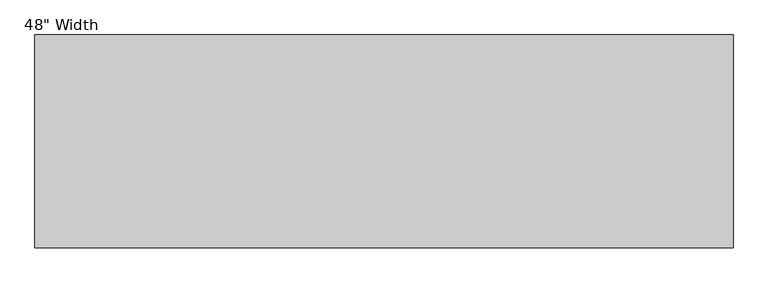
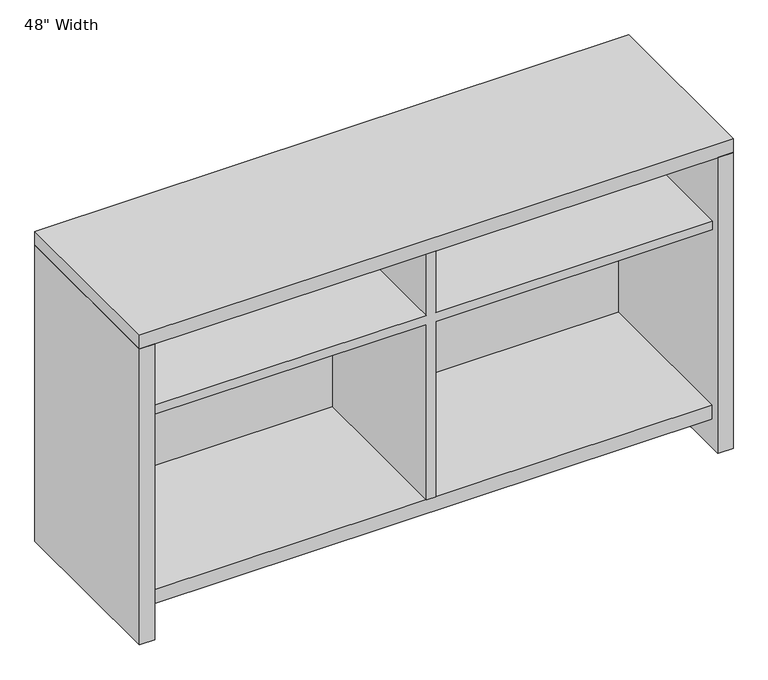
"""IFC4 building model written with IfcOpenShell, lengths in millimetres: furniture geometry."""

from ifc_helpers import new_model, si_unit, frame, origin, origin_with_axes, place, context, project, spatial, polyline, outline, extrude, source, transform, mapped, element, save


def furniture_297744aa(model_context):
    return source(origin(), model_context, "Body", "SweptSolid", [
        extrude(outline(polyline([(493.7125, -577.85), (474.6625, -577.85), (474.6625, -9.525), (93.6625, -9.525), (93.6625, 9.525), (474.6625, 9.525), (474.6625, 577.85), (493.7125, 577.85), (493.7125, 9.525), (642.9375, 9.525), (642.9375, -9.525), (493.7125, -9.525), (493.7125, -577.85)])), frame((0.0, -352.425, 0.0), z_axis=(0.0, 1.0, 0.0), x_axis=(0.0, 0.0, 1.0)), (0.0, 0.0, 1.0), 333.375),
        extrude(outline(polyline([(-609.6, 0.0), (-577.85, 0.0), (-577.85, -371.475), (-609.6, -371.475), (-609.6, 0.0)])), origin_with_axes(), (0.0, 0.0, 1.0), 642.9375),
        extrude(outline(polyline([(609.6, -371.475), (577.85, -371.475), (577.85, 0.0), (609.6, 0.0), (609.6, -371.475)])), origin_with_axes(), (0.0, 0.0, 1.0), 642.9375),
        extrude(outline(polyline([(577.85, -19.05), (577.85, -352.425), (-577.85, -352.425), (-577.85, -19.05), (577.85, -19.05)])), frame((0.0, 0.0, 63.5), z_axis=(0.0, 0.0, 1.0), x_axis=(1.0, 0.0, 0.0)), (0.0, 0.0, 1.0), 30.1625),
        extrude(outline(polyline([(609.6, 0.0), (609.6, -371.475), (-609.6, -371.475), (-609.6, 0.0), (609.6, 0.0)])), frame((0.0, 0.0, 642.9375), z_axis=(0.0, 0.0, 1.0), x_axis=(1.0, 0.0, 0.0)), (0.0, 0.0, 1.0), 30.1625),
        extrude(outline(polyline([(577.85, 0.0), (577.85, -19.05), (-577.85, -19.05), (-577.85, 0.0), (577.85, 0.0)])), frame((0.0, 0.0, 63.5), z_axis=(0.0, 0.0, 1.0), x_axis=(1.0, 0.0, 0.0)), (0.0, 0.0, 1.0), 579.4375),
    ])


if __name__ == "__main__":
    model = new_model("IFC4")
    model_context = context("Model", 3, world=origin())
    ifc_project = project(units=[si_unit("LENGTHUNIT", "METRE", prefix="MILLI")], contexts=[model_context])
    site = spatial("IfcSite", under=ifc_project)
    building = spatial("IfcBuilding", under=site)
    placement = place(None, origin())
    furniture_shape = furniture_297744aa(model_context)
    element("IfcFurniture", 1, ObjectType="Haworth_XSeries-Active-Bookcase : 48\" Width", at=placement, inside=building, context=model_context, shape_type="MappedRepresentation", body=[
        mapped(furniture_shape, transform((0.0, 0.0, 0.0), x_axis=(1.0, 0.0, 0.0), y_axis=(0.0, 1.0, 0.0), z_axis=(0.0, 0.0, 1.0))),
    ])
    save(model, "model.ifc")
